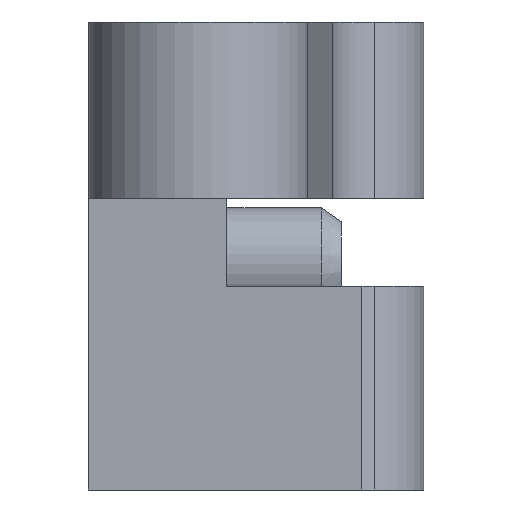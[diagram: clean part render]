
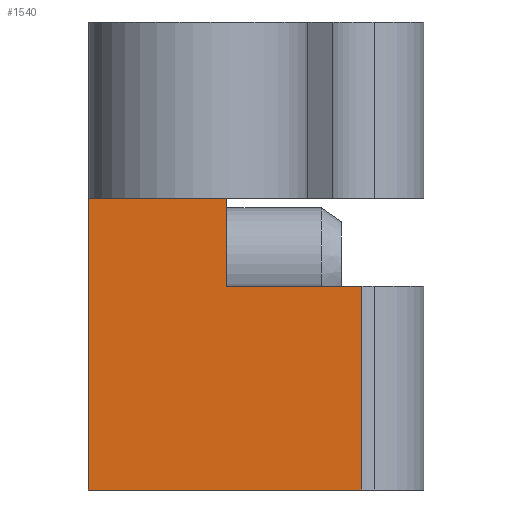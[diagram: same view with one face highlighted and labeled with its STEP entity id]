
A CAD part, left-side view. The second image highlights one B-rep face of the part: STEP entity #1540.
In plain terms, the highlighted planar face has unit normal (-1, 0, 0).
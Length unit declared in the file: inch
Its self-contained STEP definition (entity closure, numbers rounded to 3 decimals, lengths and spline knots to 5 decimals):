
#52 = CARTESIAN_POINT ( 'NONE',  ( -0.075, -0.01869, 0. ) ) ;
#69 = AXIS2_PLACEMENT_3D ( 'NONE', #1604, #147, #118 ) ;
#71 = LINE ( 'NONE', #512, #386 ) ;
#82 = VECTOR ( 'NONE', #987, 39.37008 ) ;
#118 = DIRECTION ( 'NONE',  ( 0., 0., 1. ) ) ;
#147 = DIRECTION ( 'NONE',  ( -1., 0., 0. ) ) ;
#208 = ORIENTED_EDGE ( 'NONE', *, *, #414, .T. ) ;
#308 = ORIENTED_EDGE ( 'NONE', *, *, #1409, .T. ) ;
#313 = EDGE_LOOP ( 'NONE', ( #208, #355, #308, #330, #410, #424 ) ) ;
#330 = ORIENTED_EDGE ( 'NONE', *, *, #1553, .T. ) ;
#346 = LINE ( 'NONE', #971, #944 ) ;
#355 = ORIENTED_EDGE ( 'NONE', *, *, #1168, .T. ) ;
#371 = VERTEX_POINT ( 'NONE', #550 ) ;
#378 = LINE ( 'NONE', #558, #713 ) ;
#386 = VECTOR ( 'NONE', #742, 39.37008 ) ;
#410 = ORIENTED_EDGE ( 'NONE', *, *, #506, .T. ) ;
#414 = EDGE_CURVE ( 'NONE', #871, #371, #378, .T. ) ;
#424 = ORIENTED_EDGE ( 'NONE', *, *, #943, .T. ) ;
#451 = VERTEX_POINT ( 'NONE', #52 ) ;
#469 = CARTESIAN_POINT ( 'NONE',  ( -0.075, 0.23, 0.265 ) ) ;
#505 = VECTOR ( 'NONE', #1314, 39.37008 ) ;
#506 = EDGE_CURVE ( 'NONE', #1534, #1206, #1101, .T. ) ;
#512 = CARTESIAN_POINT ( 'NONE',  ( -0.075, -0.075, 0.265 ) ) ;
#550 = CARTESIAN_POINT ( 'NONE',  ( -0.075, 0.23, 0. ) ) ;
#558 = CARTESIAN_POINT ( 'NONE',  ( -0.075, 0.23, 0.425 ) ) ;
#595 = VECTOR ( 'NONE', #946, 39.37008 ) ;
#665 = DIRECTION ( 'NONE',  ( 0., -1., 0. ) ) ;
#713 = VECTOR ( 'NONE', #1319, 39.37008 ) ;
#742 = DIRECTION ( 'NONE',  ( 0., 1., 0. ) ) ;
#871 = VERTEX_POINT ( 'NONE', #469 ) ;
#943 = EDGE_CURVE ( 'NONE', #1206, #871, #71, .T. ) ;
#944 = VECTOR ( 'NONE', #665, 39.37008 ) ;
#946 = DIRECTION ( 'NONE',  ( 0., 1., 0. ) ) ;
#968 = CARTESIAN_POINT ( 'NONE',  ( -0.075, -0.01869, 0.265 ) ) ;
#971 = CARTESIAN_POINT ( 'NONE',  ( -0.075, -0.075, 0. ) ) ;
#987 = DIRECTION ( 'NONE',  ( 0., 0., 1. ) ) ;
#1041 = CARTESIAN_POINT ( 'NONE',  ( -0.075, 0.1045, 0.265 ) ) ;
#1101 = LINE ( 'NONE', #1425, #505 ) ;
#1168 = EDGE_CURVE ( 'NONE', #371, #451, #346, .T. ) ;
#1206 = VERTEX_POINT ( 'NONE', #1041 ) ;
#1249 = VERTEX_POINT ( 'NONE', #1467 ) ;
#1253 = FACE_OUTER_BOUND ( 'NONE', #313, .T. ) ;
#1267 = CARTESIAN_POINT ( 'NONE',  ( -0.075, -0.075, 0.185 ) ) ;
#1314 = DIRECTION ( 'NONE',  ( 0., 0., 1. ) ) ;
#1319 = DIRECTION ( 'NONE',  ( 0., 0., -1. ) ) ;
#1409 = EDGE_CURVE ( 'NONE', #451, #1249, #1414, .T. ) ;
#1414 = LINE ( 'NONE', #968, #82 ) ;
#1425 = CARTESIAN_POINT ( 'NONE',  ( -0.075, 0.1045, 0.265 ) ) ;
#1467 = CARTESIAN_POINT ( 'NONE',  ( -0.075, -0.01869, 0.185 ) ) ;
#1487 = PLANE ( 'NONE',  #69 ) ;
#1510 = LINE ( 'NONE', #1267, #595 ) ;
#1534 = VERTEX_POINT ( 'NONE', #1549 ) ;
#1540 = ADVANCED_FACE ( 'NONE', ( #1253 ), #1487, .T. ) ;
#1549 = CARTESIAN_POINT ( 'NONE',  ( -0.075, 0.1045, 0.185 ) ) ;
#1553 = EDGE_CURVE ( 'NONE', #1249, #1534, #1510, .T. ) ;
#1604 = CARTESIAN_POINT ( 'NONE',  ( -0.075, -0.075, 0.265 ) ) ;
